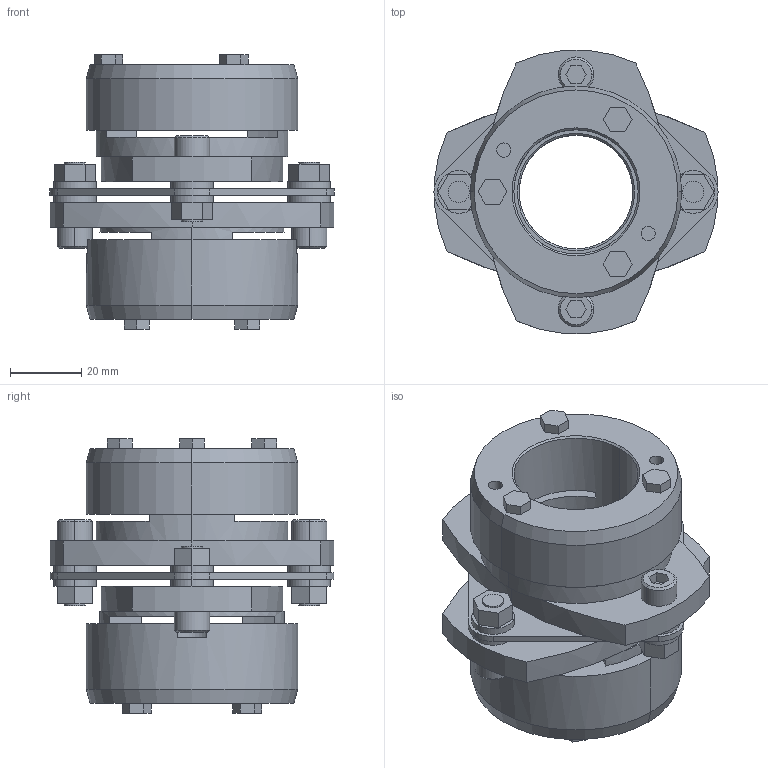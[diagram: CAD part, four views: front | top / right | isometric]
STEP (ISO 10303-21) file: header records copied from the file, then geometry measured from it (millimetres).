
FILE_DESCRIPTION((''),'2;1');
FILE_NAME('LCS-80T7-32×35.stp','2011-09-12T16:53:57',(''),(''),'AutoCAD STEP 2000i','AutoCAD 2000i',', , ');
FILE_SCHEMA(('CONFIG_CONTROL_DESIGN'));
Length unit declared in the file: millimetre
Products named in the file (14): LCS-80T7-32×35; 忣兜1; LC80T7-T032; LC80T7-T035-1; LC80T7-T035; LC80T7-T030; LC80T7-T028-1; LC80T7-T028; LC80T7-T024; LC80T7-T022; LC80T7-T019; LC80T7-T017-1; LC80T7-T017; LCS80-ITA
Assembly tree (14 placements, depth 2):
  LCS-80T7-32×35
    忣兜1
    LC80T7-T032  x2
    LC80T7-T035-1
    LC80T7-T035
    LC80T7-T030
    LC80T7-T028-1
    LC80T7-T028
    LC80T7-T024
    LC80T7-T022
    LC80T7-T019
    LC80T7-T017-1
    LC80T7-T017
    LCS80-ITA
Bounding box: 80 x 79.95 x 77.35 mm (x, y, z)
Volume: 134442.3 mm3; surface area: 42764.5 mm2
Topology: 1 solids, 1 shells, 249 faces, 614 edges, 400 vertices
Faces by surface type: plane 147, cylinder 82, cone 20
Entity records: 7705 total; most frequent: DIRECTION 1362, CARTESIAN_POINT 1278, ORIENTED_EDGE 1228, EDGE_CURVE 614, AXIS2_PLACEMENT_3D 484, VERTEX_POINT 400, VECTOR 394, LINE 394
